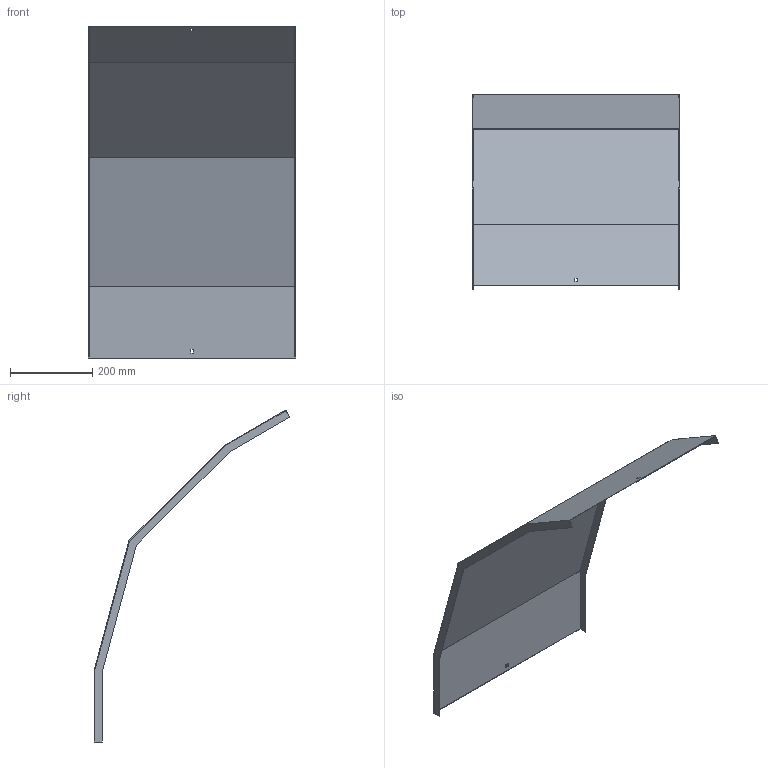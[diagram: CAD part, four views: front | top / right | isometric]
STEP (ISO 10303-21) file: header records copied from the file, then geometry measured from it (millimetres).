
FILE_DESCRIPTION (( 'STEP AP214' ), '1' );
FILE_NAME ('41N5F500.step', '2025-02-21T14:25:17', ( '' ), ( '' ), 'SwSTEP 2.0', 'SolidWorks 2023', '' );
FILE_SCHEMA (( 'AUTOMOTIVE_DESIGN' ));
Length unit declared in the file: millimetre
Products named in the file (1): 41N5F500
Bounding box: 503 x 475.35 x 806.02 mm (x, y, z)
Volume: 807982 mm3; surface area: 1081958.7 mm2
Topology: 1 solids, 1 shells, 30 faces, 84 edges, 56 vertices
Faces by surface type: plane 30
Entity records: 979 total; most frequent: CARTESIAN_POINT 171, ORIENTED_EDGE 168, DIRECTION 146, LINE 84, VECTOR 84, EDGE_CURVE 84, VERTEX_POINT 56, EDGE_LOOP 34
